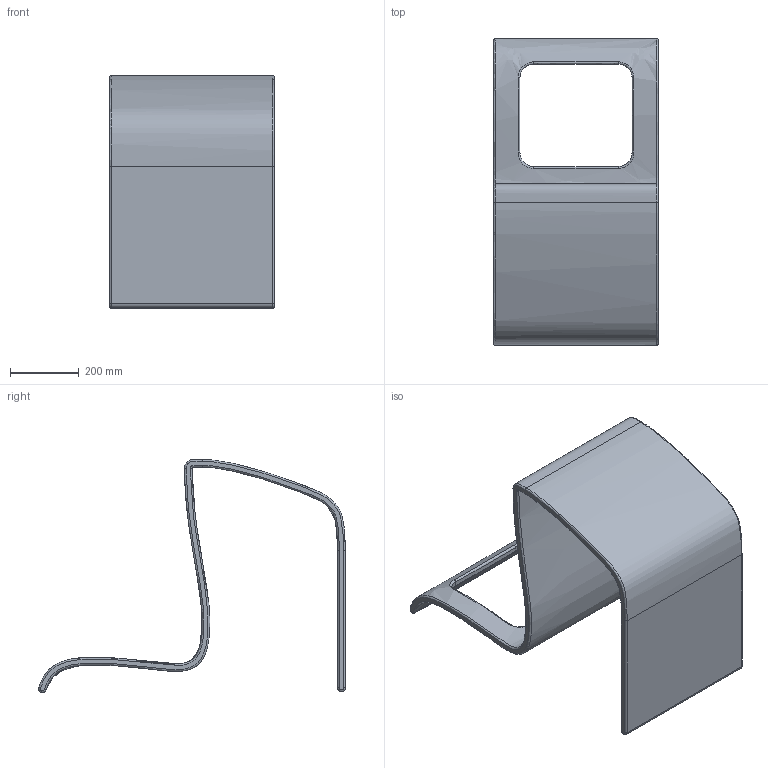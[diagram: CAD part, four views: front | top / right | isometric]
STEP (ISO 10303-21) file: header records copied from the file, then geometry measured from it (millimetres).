
FILE_DESCRIPTION(/* description */ (''),/* implementation_level */ '2;1');
FILE_NAME(/* name */ 'C:\Users\andre\Documents\SQA\Assignment\_ItemV1\STEP Files\Chair.stp',/* time_stamp */ '2020-07-28T12:31:23+01:00',/* author */ ('andre'),/* organization */ (''),/* preprocessor_version */ 'ST-DEVELOPER v17.2',/* originating_system */ 'Autodesk Inventor 2019',/* authorisation */ '');
FILE_SCHEMA (('AUTOMOTIVE_DESIGN { 1 0 10303 214 3 1 1 }'));
Length unit declared in the file: millimetre
Products named in the file (1): Chair
Bounding box: 480 x 892.19 x 677.9 mm (x, y, z)
Volume: 19619408.2 mm3; surface area: 1899506.3 mm2
Topology: 1 solids, 1 shells, 59 faces, 133 edges, 76 vertices
Faces by surface type: bspline 40, cylinder 9, plane 8, torus 2
Entity records: 6367 total; most frequent: CARTESIAN_POINT 5240, ORIENTED_EDGE 266, DIRECTION 148, EDGE_CURVE 133, VERTEX_POINT 76, B_SPLINE_CURVE_WITH_KNOTS 67, AXIS2_PLACEMENT_3D 62, EDGE_LOOP 61
